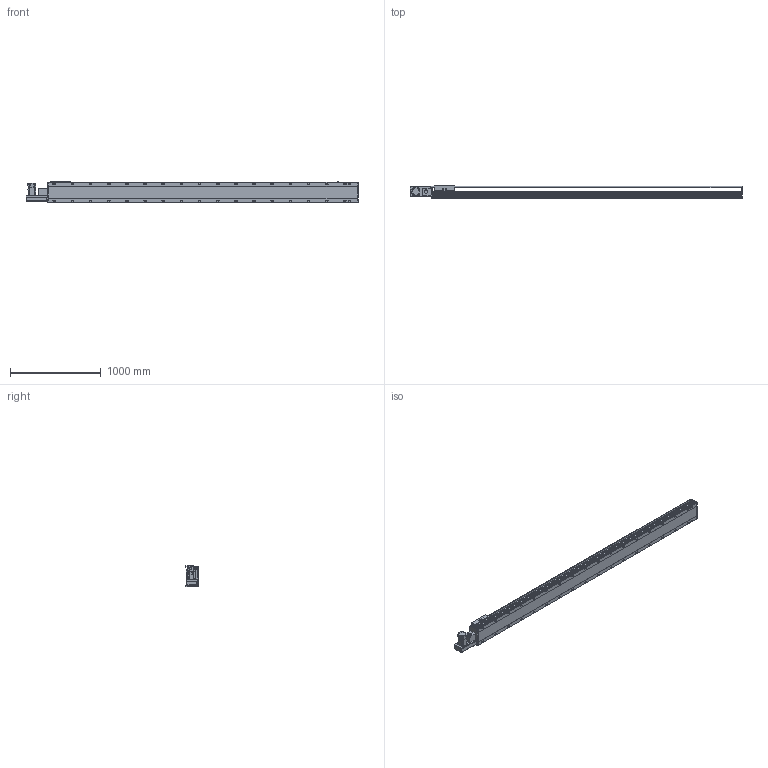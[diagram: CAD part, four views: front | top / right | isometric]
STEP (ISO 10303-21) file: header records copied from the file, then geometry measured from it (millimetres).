
FILE_DESCRIPTION(/* description */ ('STEP AP214'),/* implementation_level */ '2;1');
FILE_NAME(/* name */ 'PBS220-P40-S3050-L-T75-C1-N(0)',/* time_stamp */ '2022-06-11T09:58:31+02:00',/* author */ ('License CC BY-ND 4.0'),/* organization */ ('CADENAS'),/* preprocessor_version */ 'ST-DEVELOPER v18.102',/* originating_system */ 'PARTsolutions',/* authorisation */ ' ');
FILE_SCHEMA (('AUTOMOTIVE_DESIGN {1 0 10303 214 3 1 1}'));
Length unit declared in the file: millimetre
Products named in the file (7): PBS220-P40-S3050-L-T75-C1-N(0); PBS220_sensor; PBS220_plant; PBS220_sliser; T75-p1; PBS220T-L_motors; PBS220-S3050()_body
Assembly tree (8 placements, depth 2):
  PBS220-P40-S3050-L-T75-C1-N(0)
    PBS220_sensor  x3
    PBS220_plant
    PBS220_sliser
    T75-p1
    PBS220T-L_motors
    PBS220-S3050()_body
Bounding box: 3656 x 134 x 238.5 mm (x, y, z)
Volume: 49059410.1 mm3; surface area: 4451685.9 mm2
Topology: 8 solids, 8 shells, 1034 faces, 2676 edges, 1738 vertices
Faces by surface type: plane 638, cylinder 336, cone 60
Full cylindrical faces by diameter (mm): 2.013 x4, 4.5 x14, 4.917 x4, 6 x7, 6.647 x8, 8 x10, 8.376 x36, 8.5 x36, 10 x6, 14 x36, 38 x2, 40 x1, 70 x1
Entity records: 28749 total; most frequent: CARTESIAN_POINT 5152, DIRECTION 4995, ORIENTED_EDGE 4466, EDGE_CURVE 2233, AXIS2_PLACEMENT_3D 1815, VERTEX_POINT 1576, EDGE_LOOP 1389, FACE_BOUND 1389
